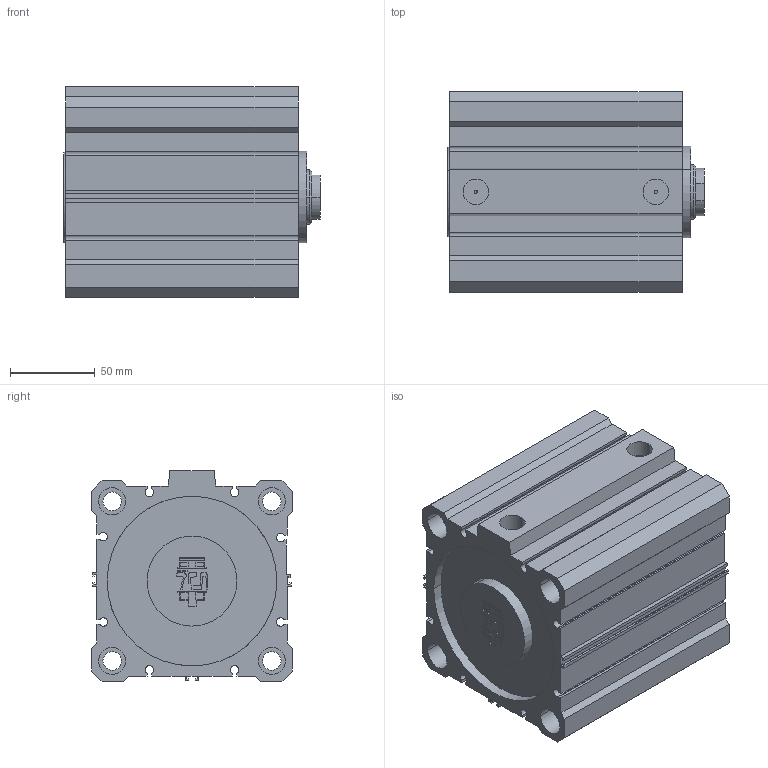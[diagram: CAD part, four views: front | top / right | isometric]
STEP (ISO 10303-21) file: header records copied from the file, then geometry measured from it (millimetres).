
FILE_DESCRIPTION(('CATIA V5 STEP Exchange'),'2;1');
FILE_NAME('D:\PDA\PDA-STP\PDA 100-32\PDA 100-32-80.stp','2016-02-02T11:08:37+00:00',('none'),('none'),'Version 5-6 Release 2012','CATIA V5 STEP AP203','none');
FILE_SCHEMA(('CONFIG_CONTROL_DESIGN'));
Length unit declared in the file: millimetre
Products named in the file (1): PDA 100-32-80-00
Assembly tree (2 placements, depth 2):
  PDA 100-32-80-00
    #58
    #7695
Bounding box: 151 x 118 x 124 mm (x, y, z)
Volume: 1027290.5 mm3; surface area: 220669.7 mm2
Topology: 2 solids, 2 shells, 284 faces, 744 edges, 498 vertices
Faces by surface type: plane 202, cylinder 80, cone 2
Entity records: 8167 total; most frequent: ORIENTED_EDGE 1488, CARTESIAN_POINT 1432, DIRECTION 1124, EDGE_CURVE 744, VECTOR 574, LINE 574, VERTEX_POINT 498, AXIS2_PLACEMENT_3D 360
